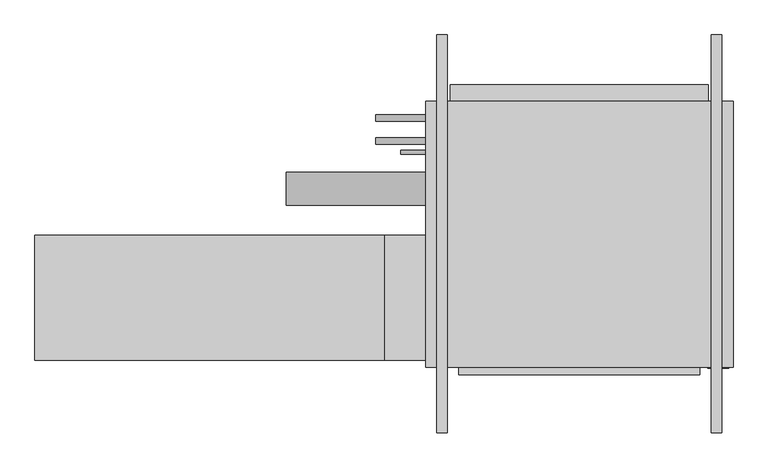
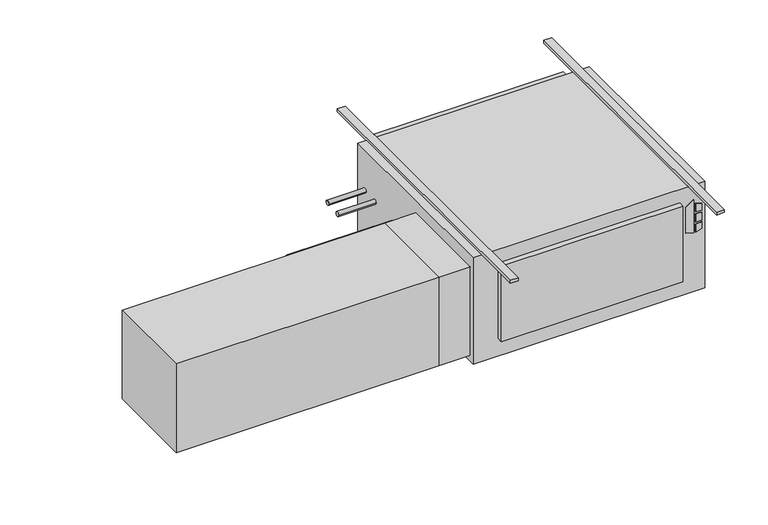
"""IFC4 building model written with IfcOpenShell, lengths in millimetres: proxy geometry."""

from ifc_helpers import new_model, si_unit, point, frame, frame_2d, origin, origin_with_axes, place, context, project, spatial, polyline, circle_curve, trimmed, segment, composite_curve, outline, extrude, source, transform, mapped, element, save


def mechanical_equipment_d98c4a94(model_context):
    return source(origin(), model_context, "Body", "SweptSolid", [
        extrude(outline(polyline([(-193.2519297, 544.5868862), (-203.2, 576.7602728), (-61.0290756, 576.7602728), (-84.0510817, 544.5868862), (-193.2519297, 544.5868862)])), frame((0.0, -647.7, 0.0), z_axis=(0.0, 1.0, 0.0), x_axis=(0.0, 0.0, 1.0)), (0.0, 0.0, 1.0), 3.175),
        extrude(outline(polyline([(-114.2526443, 583.5186058), (-117.4550368, 609.6), (-88.2261958, 609.6), (-80.1617807, 583.5186058), (-114.2526443, 583.5186058)])), frame((0.0, -647.7, 0.0), z_axis=(0.0, 1.0, 0.0), x_axis=(0.0, 0.0, 1.0)), (0.0, 0.0, 1.0), 3.175),
        extrude(outline(polyline([(-166.1161712, 609.6), (-169.7816721, 583.5186058), (-203.2, 583.5186058), (-194.5657628, 609.6), (-166.1161712, 609.6)])), frame((0.0, -647.7, 0.0), z_axis=(0.0, 1.0, 0.0), x_axis=(0.0, 0.0, 1.0)), (0.0, 0.0, 1.0), 3.175),
        extrude(outline(polyline([(-126.8010097, 609.6), (-124.5191834, 583.5186058), (-160.4567319, 583.5186058), (-157.7154669, 609.6), (-126.8010097, 609.6)])), frame((0.0, -647.7, 0.0), z_axis=(0.0, 1.0, 0.0), x_axis=(0.0, 0.0, 1.0)), (0.0, 0.0, 1.0), 3.175),
        extrude(outline(polyline([(520.7, -666.877), (-215.9, -666.877), (-215.9, -644.525), (520.7, -644.525), (520.7, -666.877)])), frame((0.0, 0.0, -381.0), z_axis=(0.0, 0.0, 1.0), x_axis=(1.0, 0.0, 0.0)), (0.0, 0.0, 1.0), 323.85),
        extrude(outline(polyline([(-1511.3, -622.3), (-1511.3, -241.3), (-444.5, -241.3), (-444.5, -622.3), (-1511.3, -622.3)])), frame((0.0, 0.0, -431.8), z_axis=(0.0, 0.0, 1.0), x_axis=(1.0, 0.0, 0.0)), (0.0, 0.0, 1.0), 381.0),
        extrude(outline(polyline([(-317.5, -241.3), (-317.5, -622.3), (-444.5, -622.3), (-444.5, -241.3), (-317.5, -241.3)])), frame((0.0, 0.0, -431.8), z_axis=(0.0, 0.0, 1.0), x_axis=(1.0, 0.0, 0.0)), (0.0, 0.0, 1.0), 381.0),
        extrude(outline(composite_curve([segment(trimmed(circle_curve(frame_2d((-98.4896516, -228.6360165)), 50.8), [point((-149.2896516, -228.6360165))], [point((-47.6896516, -228.6360165))], False, "CARTESIAN"), True, "CONTINUOUS"), segment(trimmed(circle_curve(frame_2d((-98.4896516, -228.6360165)), 50.8), [point((-47.6896516, -228.6360165))], [point((-149.2896516, -228.6360165))], False, "CARTESIAN"), True, "CONTINUOUS")], self_intersect=False)), frame((-742.95, 0.0, 0.0), z_axis=(1.0, 0.0, 0.0), x_axis=(0.0, 1.0, 0.0)), (0.0, 0.0, 1.0), 425.45),
        extrude(outline(composite_curve([segment(trimmed(circle_curve(frame_2d((47.625, -177.8)), 9.525), [point((38.1, -177.8))], [point((57.15, -177.8))], False, "CARTESIAN"), True, "CONTINUOUS"), segment(trimmed(circle_curve(frame_2d((47.625, -177.8)), 9.525), [point((57.15, -177.8))], [point((38.1, -177.8))], False, "CARTESIAN"), True, "CONTINUOUS")], self_intersect=False)), frame((-469.9, 0.0, 0.0), z_axis=(1.0, 0.0, 0.0), x_axis=(0.0, 1.0, 0.0)), (0.0, 0.0, 1.0), 152.4),
        extrude(outline(composite_curve([segment(trimmed(circle_curve(frame_2d((117.475, -171.45)), 9.525), [point((107.95, -171.45))], [point((127.0, -171.45))], False, "CARTESIAN"), True, "CONTINUOUS"), segment(trimmed(circle_curve(frame_2d((117.475, -171.45)), 9.525), [point((127.0, -171.45))], [point((107.95, -171.45))], False, "CARTESIAN"), True, "CONTINUOUS")], self_intersect=False)), frame((-469.9, 0.0, 0.0), z_axis=(1.0, 0.0, 0.0), x_axis=(0.0, 1.0, 0.0)), (0.0, 0.0, 1.0), 152.4),
        extrude(outline(composite_curve([segment(trimmed(circle_curve(frame_2d((12.7, -409.575)), 6.35), [point((6.35, -409.575))], [point((19.05, -409.575))], False, "CARTESIAN"), True, "CONTINUOUS"), segment(trimmed(circle_curve(frame_2d((12.7, -409.575)), 6.35), [point((19.05, -409.575))], [point((6.35, -409.575))], False, "CARTESIAN"), True, "CONTINUOUS")], self_intersect=False)), frame((-393.7, 0.0, 0.0), z_axis=(1.0, 0.0, 0.0), x_axis=(0.0, 1.0, 0.0)), (0.0, 0.0, 1.0), 76.2),
        extrude(outline(polyline([(622.3, 168.275), (622.3, -644.525), (-317.5, -644.525), (-317.5, 168.275), (622.3, 168.275)])), frame((0.0, 0.0, -457.2), z_axis=(0.0, 0.0, 1.0), x_axis=(1.0, 0.0, 0.0)), (0.0, 0.0, 1.0), 457.2),
        extrude(outline(polyline([(-241.3, 219.075), (546.1, 219.075), (546.1, 168.275), (-241.3, 168.275), (-241.3, 219.075)])), frame((0.0, 0.0, -381.0), z_axis=(0.0, 0.0, 1.0), x_axis=(1.0, 0.0, 0.0)), (0.0, 0.0, 1.0), 355.6),
        extrude(outline(polyline([(-250.825, 371.475), (-250.825, -844.677), (-282.575, -844.677), (-282.575, 371.475), (-250.825, 371.475)])), origin_with_axes(), (0.0, 0.0, 1.0), 12.7),
        extrude(outline(polyline([(587.375, 371.475), (587.375, -844.677), (555.625, -844.677), (555.625, 371.475), (587.375, 371.475)])), origin_with_axes(), (0.0, 0.0, 1.0), 12.7),
    ])


if __name__ == "__main__":
    model = new_model("IFC4")
    model_context = context("Model", 3, world=origin())
    ifc_project = project(units=[si_unit("LENGTHUNIT", "METRE", prefix="MILLI")], contexts=[model_context])
    site = spatial("IfcSite", under=ifc_project)
    building = spatial("IfcBuilding", under=site)
    placement = place(None, origin())
    mechanical_equipment_shape = mechanical_equipment_d98c4a94(model_context)
    element("IfcBuildingElementProxy", 1, Name="High_Capacity_Horizontal_Cabinet_Fan_Coil_Unit_-_HTY_-_IEC_-_2-Pipe_LH Side_2022 : Size 12 - 115v/60Hz/1Ph - 4/0 Coil - 4\" AirIn", ObjectType="High_Capacity_Horizontal_Cabinet_Fan_Coil_Unit_-_HTY_-_IEC_-_2-Pipe_LH Side_2022 : Size 12 - 115v/60Hz/1Ph - 4/0 Coil - 4\" AirIn", at=placement, inside=building, context=model_context, shape_type="MappedRepresentation", body=[
        mapped(mechanical_equipment_shape, transform((0.0, 0.0, 0.0), x_axis=(1.0, 0.0, 0.0), y_axis=(0.0, 1.0, 0.0), z_axis=(0.0, 0.0, 1.0))),
    ])
    save(model, "model.ifc")
